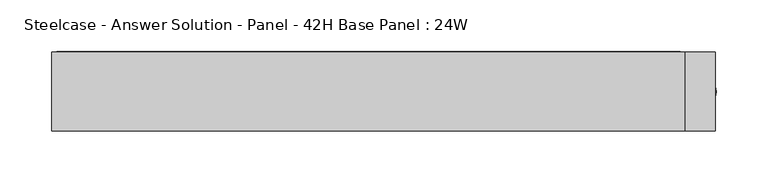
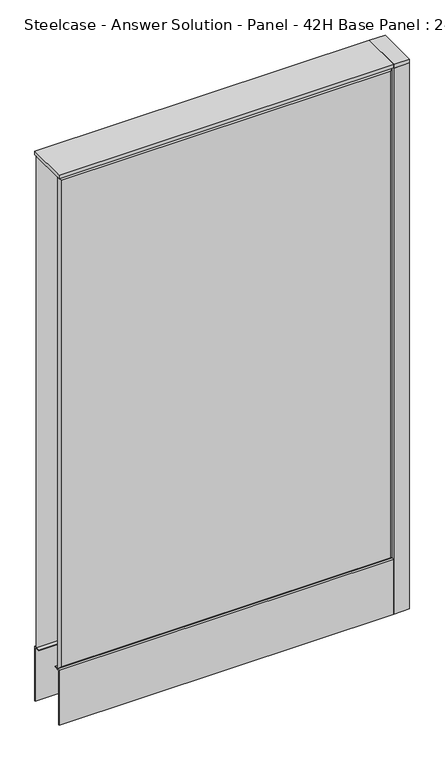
"""IFC4 building model written with IfcOpenShell, lengths in millimetres: furniture geometry, Steelcase - Answer Solution - Panel - 42H Base Panel : 24W."""

from ifc_helpers import new_model, si_unit, point, frame, frame_2d, origin, place, context, project, spatial, polyline, circle_curve, trimmed, segment, composite_curve, outline, extrude, faceted_brep, source, transform, mapped, element, save


def steelcase_answer_solution_panel_42h_base_panel_24w_c2b06143(model_context):
    return source(origin(), model_context, "Body", "SolidModel", [
        extrude(outline(composite_curve([segment(trimmed(circle_curve(frame_2d((319.024, 0.0039657)), 5.08), [point((324.104, 0.0039657))], [point((313.944, 0.0039657))], False, "CARTESIAN"), True, "CONTINUOUS"), segment(trimmed(circle_curve(frame_2d((319.024, 0.0039657)), 5.08), [point((313.944, 0.0039657))], [point((324.104, 0.0039657))], False, "CARTESIAN"), True, "CONTINUOUS")], self_intersect=False)), frame((0.0, 0.0, 5.0799671), z_axis=(0.0, 0.0, 1.0), x_axis=(1.0, 0.0, 0.0)), (0.0, 0.0, 1.0), 10.414),
        extrude(outline(composite_curve([segment(trimmed(circle_curve(frame_2d((319.024, 0.0039657)), 15.24), [point((334.264, 0.0039657))], [point((303.784, 0.0039657))], False, "CARTESIAN"), True, "CONTINUOUS"), segment(trimmed(circle_curve(frame_2d((319.024, 0.0039657)), 15.24), [point((303.784, 0.0039657))], [point((334.264, 0.0039657))], False, "CARTESIAN"), True, "CONTINUOUS")], self_intersect=False)), frame((0.0, 0.0, -3.29e-05), z_axis=(0.0, 0.0, 1.0), x_axis=(1.0, 0.0, 0.0)), (0.0, 0.0, 1.0), 5.08),
        extrude(outline(polyline([(333.375, 38.1039851), (333.375, -38.0960149), (304.8, -38.0960149), (304.8, 38.1039851), (333.375, 38.1039851)])), frame((0.0, 0.0, 1065.8348), z_axis=(0.0, 0.0, 1.0), x_axis=(1.0, 0.0, 0.0)), (0.0, 0.0, 1.0), 7.3151671),
        extrude(outline(polyline([(333.375, 38.1039851), (333.375, -38.0960149), (304.8, -38.0960149), (304.8, 38.1039851), (333.375, 38.1039851)])), frame((0.0, 0.0, 15.4939671), z_axis=(0.0, 0.0, 1.0), x_axis=(1.0, 0.0, 0.0)), (0.0, 0.0, 1.0), 1050.3408329),
        faceted_brep([(-299.974, 38.1635011, 1061.974), (299.974, 38.1635011, 1061.974), (299.974, 38.1635011, 125.476), (-299.974, 38.1635011, 125.476), (-304.8, 33.3375011, 1066.8), (-304.8, 33.3375011, 120.65), (304.8, 33.3375011, 120.65), (304.8, 33.3375011, 1066.8)], [[[0, 1, 2, 3]], [[4, 5, 6, 7]], [[4, 7, 1, 0]], [[7, 6, 2, 1]], [[6, 5, 3, 2]], [[5, 4, 0, 3]]]),
        faceted_brep([(299.974, -38.1635011, 1061.974), (-299.974, -38.1635011, 1061.974), (-299.974, -38.1635011, 125.476), (299.974, -38.1635011, 125.476), (304.8, -33.3375011, 1066.8), (304.8, -33.3375011, 120.65), (-304.8, -33.3375011, 120.65), (-304.8, -33.3375011, 1066.8)], [[[0, 1, 2, 3]], [[4, 5, 6, 7]], [[4, 7, 1, 0]], [[7, 6, 2, 1]], [[6, 5, 3, 2]], [[5, 4, 0, 3]]]),
        extrude(outline(polyline([(304.8, 38.1000194), (304.8, -38.1000194), (-304.8, -38.1000194), (-304.8, 38.1000194), (304.8, 38.1000194)])), frame((0.0, 0.0, 1066.8), z_axis=(0.0, 0.0, 1.0), x_axis=(1.0, 0.0, 0.0)), (0.0, 0.0, 1.0), 6.35),
        extrude(outline(polyline([(25.4000011, 119.8575157), (25.4000011, 120.65), (38.1000194, 120.65), (38.1000194, 15.494), (37.3075215, 15.494), (37.3075215, 119.8575157), (25.4000011, 119.8575157)])), frame((-304.8, 0.0, 0.0), z_axis=(1.0, 0.0, 0.0), x_axis=(0.0, 1.0, 0.0)), (0.0, 0.0, 1.0), 609.6),
        extrude(outline(polyline([(-25.4000011, 119.8575157), (-37.3075215, 119.8575157), (-37.3075215, 15.494), (-38.1000194, 15.494), (-38.1000194, 120.65), (-25.4000011, 120.65), (-25.4000011, 119.8575157)])), frame((-304.8, 0.0, 0.0), z_axis=(1.0, 0.0, 0.0), x_axis=(0.0, 1.0, 0.0)), (0.0, 0.0, 1.0), 609.6),
    ])


if __name__ == "__main__":
    model = new_model("IFC4")
    model_context = context("Model", 3, world=origin())
    ifc_project = project(units=[si_unit("LENGTHUNIT", "METRE", prefix="MILLI")], contexts=[model_context])
    site = spatial("IfcSite", under=ifc_project)
    building = spatial("IfcBuilding", under=site)
    placement = place(None, origin())
    steelcase_answer_solution_panel_42h_base_panel_24w_shape = steelcase_answer_solution_panel_42h_base_panel_24w_c2b06143(model_context)
    element("IfcFurniture", 1, ObjectType="Steelcase - Answer Solution - Panel - 42H Base Panel : 24W", at=placement, inside=building, context=model_context, shape_type="MappedRepresentation", body=[
        mapped(steelcase_answer_solution_panel_42h_base_panel_24w_shape, transform((0.0, 0.0, 0.0), x_axis=(1.0, 0.0, 0.0), y_axis=(0.0, 1.0, 0.0), z_axis=(0.0, 0.0, 1.0))),
    ])
    save(model, "model.ifc")
